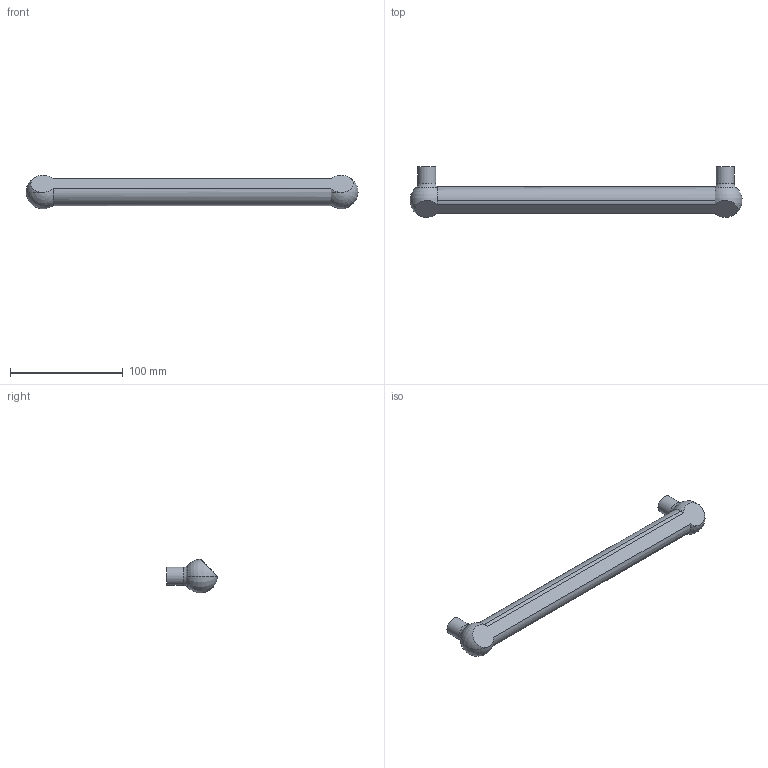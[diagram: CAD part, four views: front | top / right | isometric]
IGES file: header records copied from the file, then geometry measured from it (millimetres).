
Start section: Data from Parasolid IGES Translator 15.0.47, Copyright(c) 2006 Siemens P LM Software. All Rights Reserved.
Global section: file name: 9105767.igs; native system:  By UGS Corp.; preprocessor: XPlus GENERIC/IGES 3.0; author: Noname; organization: Noname; date: 20140122.155733; units: millimetre
Bounding box: 294.88 x 45 x 29.7 mm (x, y, z)
Surface area: 24800.2 mm2 (no closed solid volume)
Topology: 0 solids, 0 shells, 17 faces, 78 edges, 68 vertices
Faces by surface type: revolution 12, extrusion 5
